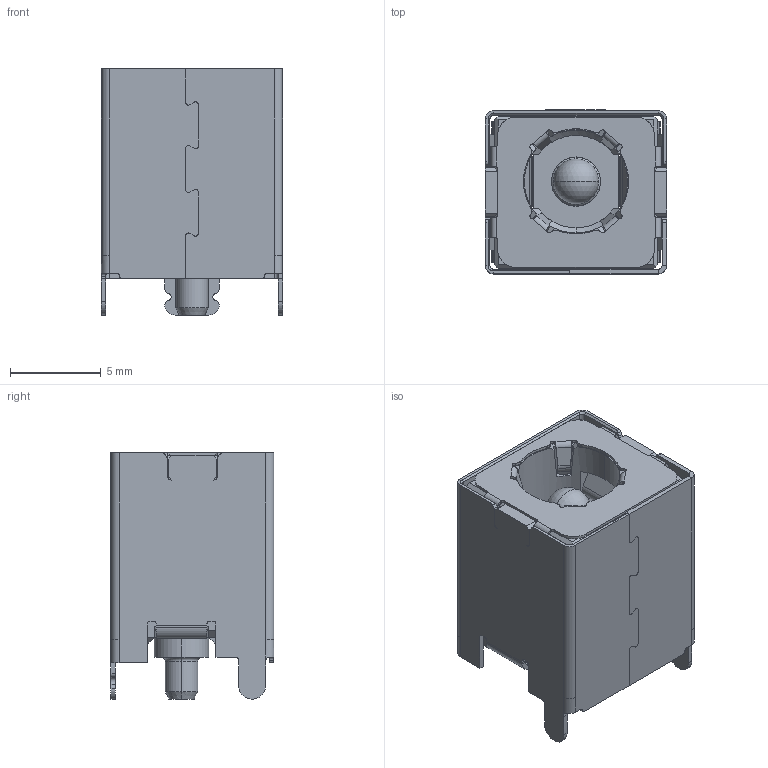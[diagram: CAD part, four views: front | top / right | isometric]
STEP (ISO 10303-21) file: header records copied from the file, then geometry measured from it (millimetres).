
FILE_DESCRIPTION (( 'STEP AP203' ), '1' );
FILE_NAME ('DC-S011B-D025-20A.STEP', '2023-07-14T11:23:41', ( '' ), ( '' ), 'SwSTEP 2.0', 'SolidWorks 2023', '' );
FILE_SCHEMA (( 'CONFIG_CONTROL_DESIGN' ));
Length unit declared in the file: millimetre
Products named in the file (1): DC-S011B-D025-20A
Bounding box: 10 x 9.05 x 13.6 mm (x, y, z)
Volume: 537.2 mm3; surface area: 2117.6 mm2
Topology: 1 solids, 2 shells, 1160 faces, 3054 edges, 1900 vertices
Faces by surface type: plane 743, cylinder 304, bspline 90, cone 19, torus 2, sphere 2
Entity records: 39608 total; most frequent: CARTESIAN_POINT 11399, ORIENTED_EDGE 6100, DIRECTION 5486, EDGE_CURVE 3050, LINE 2150, VECTOR 2150, VERTEX_POINT 1898, AXIS2_PLACEMENT_3D 1668
